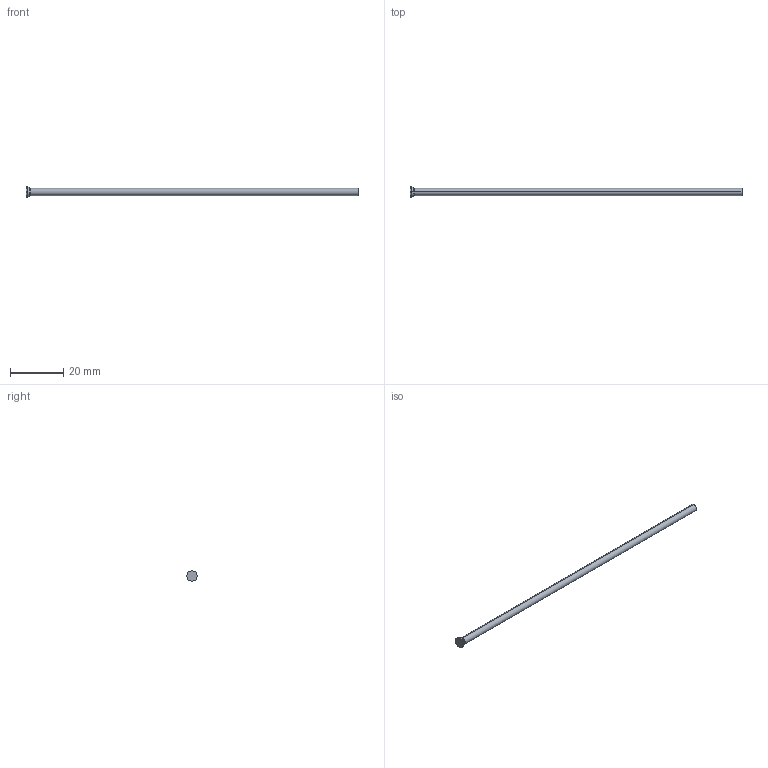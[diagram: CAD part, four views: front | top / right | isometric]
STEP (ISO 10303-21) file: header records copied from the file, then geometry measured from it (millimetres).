
FILE_DESCRIPTION (( 'STEP AP214' ), '1' );
FILE_NAME ('D-2,75x125.STEP', '2020-06-08T10:34:59', ( 'August' ), ( '' ), 'SwSTEP 2.0', 'SolidWorks 2018', '' );
FILE_SCHEMA (( 'AUTOMOTIVE_DESIGN' ));
Length unit declared in the file: millimetre
Products named in the file (1): D-2,75x125
Bounding box: 125 x 4 x 4 mm (x, y, z)
Volume: 749.2 mm3; surface area: 1104.3 mm2
Topology: 1 solids, 1 shells, 10 faces, 18 edges, 10 vertices
Faces by surface type: cylinder 4, torus 2, cone 2, plane 2
Entity records: 280 total; most frequent: DIRECTION 52, CARTESIAN_POINT 39, ORIENTED_EDGE 36, AXIS2_PLACEMENT_3D 23, EDGE_CURVE 18, CIRCLE 12, ADVANCED_FACE 10, VERTEX_POINT 10
